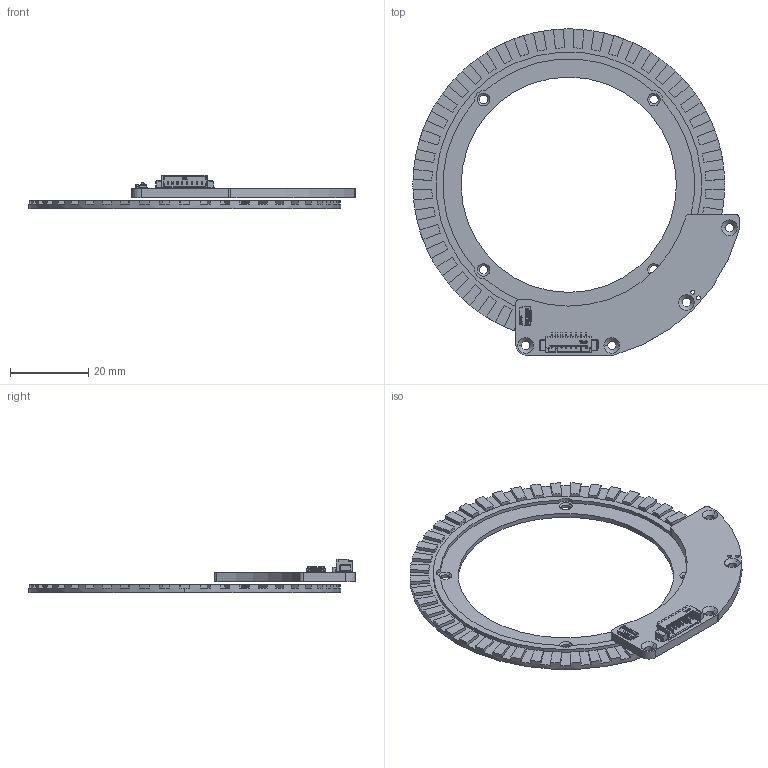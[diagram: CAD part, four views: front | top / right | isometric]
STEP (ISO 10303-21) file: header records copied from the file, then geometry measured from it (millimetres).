
FILE_DESCRIPTION((''),'2;1');
FILE_NAME('PCB_ASM','2024-12-02T',('Cujo'),(''),'PRO/ENGINEER BY PARAMETRIC TECHNOLOGY CORPORATION, 2017170','PRO/ENGINEER BY PARAMETRIC TECHNOLOGY CORPORATION, 2017170','');
FILE_SCHEMA(('CONFIG_CONTROL_DESIGN'));
Products named in the file (70): BOARD; MANIFOLD_SOLID_BREP_191683; MANIFOLD_SOLID_BREP_191187; MANIFOLD_SOLID_BREP_190655; MANIFOLD_SOLID_BREP_190241; MANIFOLD_SOLID_BREP_189698; MANIFOLD_SOLID_BREP_188873; MANIFOLD_SOLID_BREP_188041; MANIFOLD_SOLID_BREP_187627; MANIFOLD_SOLID_BREP_187131; MANIFOLD_SOLID_BREP_186599; MANIFOLD_SOLID_BREP_186185; MANIFOLD_SOLID_BREP_185633; MANIFOLD_SOLID_BREP_185417; MANIFOLD_SOLID_BREP_185265; MANIFOLD_SOLID_BREP_185113; MANIFOLD_SOLID_BREP_184961; MANIFOLD_SOLID_BREP_184809; MANIFOLD_SOLID_BREP_184657; MANIFOLD_SOLID_BREP_184472; MANIFOLD_SOLID_BREP_184287; MANIFOLD_SOLID_BREP_184102; MANIFOLD_SOLID_BREP_183917; MANIFOLD_SOLID_BREP_183732; MANIFOLD_SOLID_BREP_183582; MANIFOLD_SOLID_BREP_183432; MANIFOLD_SOLID_BREP_183282; MANIFOLD_SOLID_BREP_183132; MANIFOLD_SOLID_BREP_182982; MANIFOLD_SOLID_BREP_182826; MANIFOLD_SOLID_BREP_182670; MANIFOLD_SOLID_BREP_182514; MANIFOLD_SOLID_BREP_182358; MANIFOLD_SOLID_BREP_182202; MANIFOLD_SOLID_BREP_182052; MANIFOLD_SOLID_BREP_181902; MANIFOLD_SOLID_BREP_181752; MANIFOLD_SOLID_BREP_181602; MANIFOLD_SOLID_BREP_181452; MANIFOLD_SOLID_BREP_181170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
Assembly tree (69 placements, depth 4):
  PCB_ASM
    BOARD
    FPC4_ASM
      FPC1_ASM
        MANIFOLD_SOLID_BREP_191683
        MANIFOLD_SOLID_BREP_191187
        MANIFOLD_SOLID_BREP_190655
        MANIFOLD_SOLID_BREP_190241
        MANIFOLD_SOLID_BREP_189698
        MANIFOLD_SOLID_BREP_188873
        MANIFOLD_SOLID_BREP_188041
        MANIFOLD_SOLID_BREP_187627
        MANIFOLD_SOLID_BREP_187131
        MANIFOLD_SOLID_BREP_186599
        MANIFOLD_SOLID_BREP_186185
        MANIFOLD_SOLID_BREP_185633
        MANIFOLD_SOLID_BREP_185417
        MANIFOLD_SOLID_BREP_185265
        MANIFOLD_SOLID_BREP_185113
        MANIFOLD_SOLID_BREP_184961
        MANIFOLD_SOLID_BREP_184809
        MANIFOLD_SOLID_BREP_184657
        MANIFOLD_SOLID_BREP_184472
        MANIFOLD_SOLID_BREP_184287
        MANIFOLD_SOLID_BREP_184102
        MANIFOLD_SOLID_BREP_183917
        MANIFOLD_SOLID_BREP_183732
        MANIFOLD_SOLID_BREP_183582
        MANIFOLD_SOLID_BREP_183432
        MANIFOLD_SOLID_BREP_183282
        MANIFOLD_SOLID_BREP_183132
        MANIFOLD_SOLID_BREP_182982
        MANIFOLD_SOLID_BREP_182826
        MANIFOLD_SOLID_BREP_182670
        MANIFOLD_SOLID_BREP_182514
        MANIFOLD_SOLID_BREP_182358
        MANIFOLD_SOLID_BREP_182202
        MANIFOLD_SOLID_BREP_182052
        MANIFOLD_SOLID_BREP_181902
        MANIFOLD_SOLID_BREP_181752
        MANIFOLD_SOLID_BREP_181602
        MANIFOLD_SOLID_BREP_181452
        MANIFOLD_SOLID_BREP_181170
        MANIFOLD_SOLID_BREP_180888
        MANIFOLD_SOLID_BREP_175654
        MANIFOLD_SOLID_BREP_175469
        MANIFOLD_SOLID_BREP_175317
        MANIFOLD_SOLID_BREP_175167
        MANIFOLD_SOLID_BREP_174687
        MANIFOLD_SOLID_BREP_174531
        MANIFOLD_SOLID_BREP_174381
    CN4_ASM
      CN1_ASM
        MANIFOLD_SOLID_BREP_72793
        MANIFOLD_SOLID_BREP_72297
        MANIFOLD_SOLID_BREP_71765
        MANIFOLD_SOLID_BREP_71351
        MANIFOLD_SOLID_BREP_70808
        MANIFOLD_SOLID_BREP_69983
        MANIFOLD_SOLID_BREP_69151
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Bounding box: 83.3 x 83.3 x 8.55 mm (x, y, z)
Volume: 6029 mm3; surface area: 9361.8 mm2
Topology: 65 solids, 65 shells, 1677 faces, 4441 edges, 2927 vertices
Faces by surface type: plane 1155, cylinder 250, extrusion 250, cone 16, bspline 4, sphere 2
Entity records: 76037 total; most frequent: CARTESIAN_POINT 20700, ORIENTED_EDGE 8878, DIRECTION 7684, EDGE_CURVE 4439, VECTOR 3614, LINE 3364, VERTEX_POINT 2927, PRESENTATION_STYLE_ASSIGNMENT 2419
